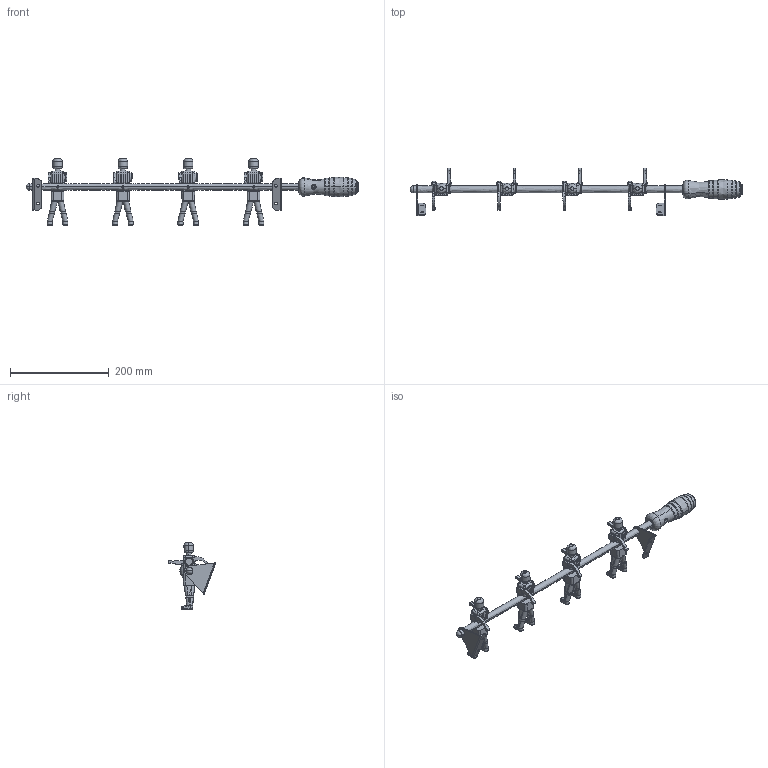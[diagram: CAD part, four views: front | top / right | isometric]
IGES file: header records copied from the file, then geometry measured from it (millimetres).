
Start section: START RECORD GO HERE.
Global section: file name: Wall_Champions_4.igs; native system: DASSAULT SYSTEMES CATIA V5 R21 - www.3ds.com; preprocessor: CATIA Version 5 Release 21 ; author: DISSENY; organization: DISSENY-PC; date: 20170510.101218; units: millimetre
Bounding box: 670.75 x 96 x 135.36 mm (x, y, z)
Surface area: 155360.5 mm2 (no closed solid volume)
Topology: 0 solids, 0 shells, 980 faces, 4618 edges, 4614 vertices
Faces by surface type: revolution 454, plane 454, bspline 72
